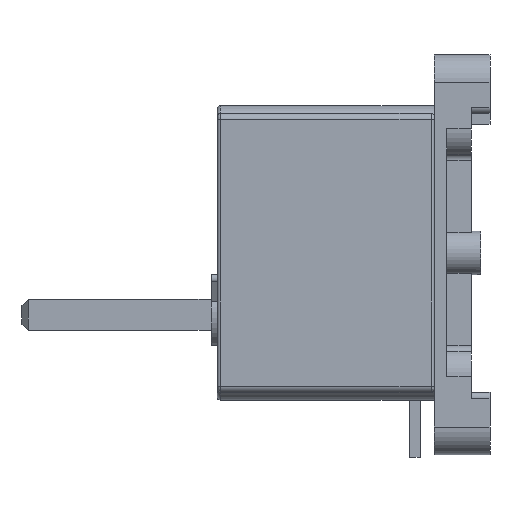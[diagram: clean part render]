
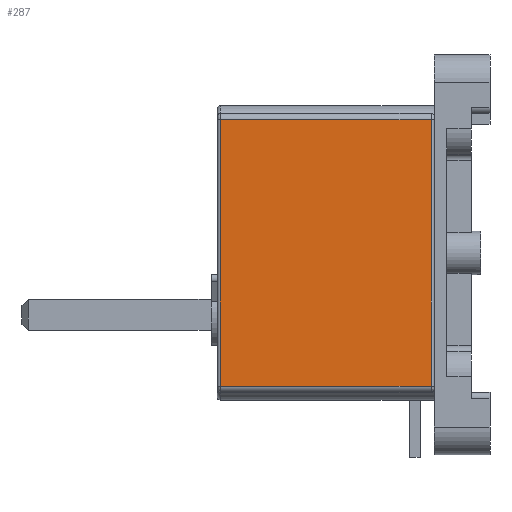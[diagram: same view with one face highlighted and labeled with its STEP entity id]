
A CAD part, left-side view. The second image highlights one B-rep face of the part: STEP entity #287.
In plain terms, the highlighted planar face has unit normal (-1, 0, 0).
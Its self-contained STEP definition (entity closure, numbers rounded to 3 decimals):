
#287=ADVANCED_FACE('',(#593),#485,.F.);
#485=PLANE('',#3699);
#593=FACE_OUTER_BOUND('',#752,.T.);
#752=EDGE_LOOP('',(#1311,#1312,#1313,#1314));
#1311=ORIENTED_EDGE('',*,*,#2629,.F.);
#1312=ORIENTED_EDGE('',*,*,#2630,.T.);
#1313=ORIENTED_EDGE('',*,*,#2626,.T.);
#1314=ORIENTED_EDGE('',*,*,#2631,.T.);
#2278=VERTEX_POINT('',#5449);
#2279=VERTEX_POINT('',#5450);
#2280=VERTEX_POINT('',#5455);
#2281=VERTEX_POINT('',#5456);
#2626=EDGE_CURVE('',#2278,#2279,#3085,.T.);
#2629=EDGE_CURVE('',#2280,#2281,#3086,.T.);
#2630=EDGE_CURVE('',#2280,#2278,#3087,.T.);
#2631=EDGE_CURVE('',#2279,#2281,#3088,.T.);
#3085=LINE('',#5448,#3390);
#3086=LINE('',#5454,#3391);
#3087=LINE('',#5457,#3392);
#3088=LINE('',#5458,#3393);
#3390=VECTOR('',#4203,1.);
#3391=VECTOR('',#4210,1.);
#3392=VECTOR('',#4211,1.);
#3393=VECTOR('',#4212,1.);
#3699=AXIS2_PLACEMENT_3D('',#5459,#4213,#4214);
#4203=DIRECTION('',(0.,-1.,0.));
#4210=DIRECTION('',(0.,-1.,0.));
#4211=DIRECTION('',(0.,0.,-1.));
#4212=DIRECTION('',(0.,0.,1.));
#4213=DIRECTION('',(1.,0.,0.));
#4214=DIRECTION('',(0.,0.,-1.));
#5448=CARTESIAN_POINT('',(-41.,35.,-43.));
#5449=CARTESIAN_POINT('',(-41.,69.,-43.));
#5450=CARTESIAN_POINT('',(-41.,1.,-43.));
#5454=CARTESIAN_POINT('',(-41.,35.,43.));
#5455=CARTESIAN_POINT('',(-41.,69.,43.));
#5456=CARTESIAN_POINT('',(-41.,1.,43.));
#5457=CARTESIAN_POINT('',(-41.,69.,-43.));
#5458=CARTESIAN_POINT('',(-41.,1.,-43.));
#5459=CARTESIAN_POINT('',(-41.,35.,-43.));
